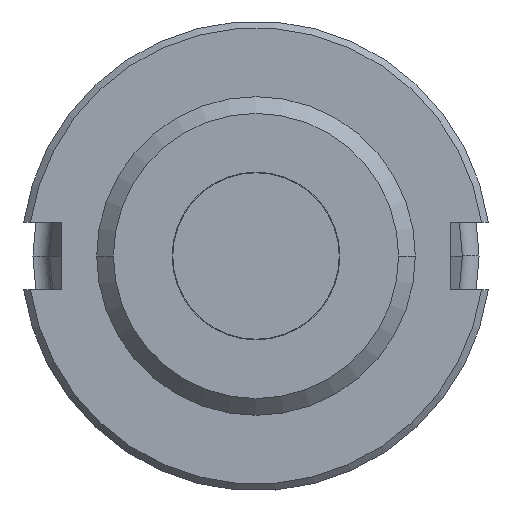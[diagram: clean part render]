
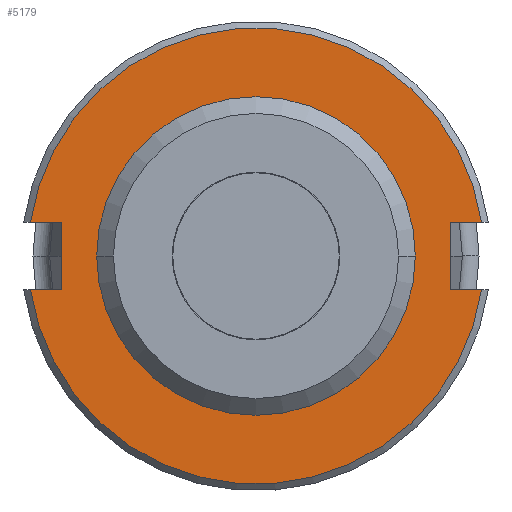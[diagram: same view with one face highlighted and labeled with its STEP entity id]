
A CAD part, left-side view. The second image highlights one B-rep face of the part: STEP entity #5179.
In plain terms, the highlighted planar face has unit normal (-1, 0, 0).
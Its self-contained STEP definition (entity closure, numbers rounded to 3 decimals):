
#195=DIRECTION('',(0.,1.,0.));
#196=VECTOR('',#195,0.926);
#197=CARTESIAN_POINT('',(-9.,5.8,-1.));
#198=LINE('',#197,#196);
#199=DIRECTION('',(0.,0.,-1.));
#200=VECTOR('',#199,2.);
#201=CARTESIAN_POINT('',(-9.,5.8,1.));
#202=LINE('',#201,#200);
#203=DIRECTION('',(0.,-1.,0.));
#204=VECTOR('',#203,0.926);
#205=CARTESIAN_POINT('',(-9.,6.726,1.));
#206=LINE('',#205,#204);
#207=DIRECTION('',(0.,-1.,0.));
#208=VECTOR('',#207,0.926);
#209=CARTESIAN_POINT('',(-9.,-5.8,1.));
#210=LINE('',#209,#208);
#211=DIRECTION('',(0.,0.,1.));
#212=VECTOR('',#211,2.);
#213=CARTESIAN_POINT('',(-9.,-5.8,-1.));
#214=LINE('',#213,#212);
#215=DIRECTION('',(0.,1.,0.));
#216=VECTOR('',#215,0.926);
#217=CARTESIAN_POINT('',(-9.,-6.726,
-1.));
#218=LINE('',#217,#216);
#219=CARTESIAN_POINT('',(-9.,0.,0.));
#220=DIRECTION('',(1.,0.,0.));
#221=DIRECTION('',(0.,1.,0.));
#222=AXIS2_PLACEMENT_3D('',#219,#220,#221);
#228=CARTESIAN_POINT('',(-9.,0.,0.));
#229=DIRECTION('',(1.,0.,0.));
#230=DIRECTION('',(0.,-1.,0.));
#231=AXIS2_PLACEMENT_3D('',#228,#229,#230);
#481=CARTESIAN_POINT('',(-9.,0.,0.));
#482=DIRECTION('',(-1.,0.,0.));
#483=DIRECTION('',(0.,0.989,-0.147));
#484=AXIS2_PLACEMENT_3D('',#481,#482,#483);
#501=CARTESIAN_POINT('',(-9.,-6.726,
-1.));
#531=CARTESIAN_POINT('',(-9.,6.726,
-1.));
#547=CARTESIAN_POINT('',(-9.,6.726,1.));
#577=CARTESIAN_POINT('',(-9.,-6.726,
1.));
#583=CARTESIAN_POINT('',(-9.,0.,0.));
#584=DIRECTION('',(-1.,0.,0.));
#585=DIRECTION('',(0.,-0.989,0.147));
#586=AXIS2_PLACEMENT_3D('',#583,#584,#585);
#4795=CARTESIAN_POINT('',(-9.,-5.8,-1.));
#4796=CARTESIAN_POINT('',(-9.,-5.8,1.));
#4797=VERTEX_POINT('',#4795);
#4798=VERTEX_POINT('',#4796);
#4799=CARTESIAN_POINT('',(-9.,5.8,1.));
#4800=CARTESIAN_POINT('',(-9.,5.8,-1.));
#4801=VERTEX_POINT('',#4799);
#4802=VERTEX_POINT('',#4800);
#4807=CARTESIAN_POINT('',(-9.,4.75,0.));
#4808=CARTESIAN_POINT('',(-9.,-4.75,0.));
#4809=VERTEX_POINT('',#4807);
#4810=VERTEX_POINT('',#4808);
#4835=VERTEX_POINT('',#501);
#4838=VERTEX_POINT('',#531);
#4839=VERTEX_POINT('',#547);
#4842=VERTEX_POINT('',#577);
#5150=CARTESIAN_POINT('',(-9.,0.,0.));
#5151=DIRECTION('',(-1.,0.,0.));
#5152=DIRECTION('',(0.,0.,1.));
#5153=AXIS2_PLACEMENT_3D('',#5150,#5151,#5152);
#5154=PLANE('',#5153);
#5156=ORIENTED_EDGE('',*,*,#5155,.F.);
#5158=ORIENTED_EDGE('',*,*,#5157,.F.);
#5160=ORIENTED_EDGE('',*,*,#5159,.F.);
#5162=ORIENTED_EDGE('',*,*,#5161,.F.);
#5164=ORIENTED_EDGE('',*,*,#5163,.F.);
#5166=ORIENTED_EDGE('',*,*,#5165,.F.);
#5168=ORIENTED_EDGE('',*,*,#5167,.F.);
#5170=ORIENTED_EDGE('',*,*,#5169,.F.);
#5171=EDGE_LOOP('',(#5156,#5158,#5160,#5162,#5164,#5166,#5168,#5170));
#5172=FACE_OUTER_BOUND('',#5171,.F.);
#5174=ORIENTED_EDGE('',*,*,#5173,.F.);
#5176=ORIENTED_EDGE('',*,*,#5175,.F.);
#5177=EDGE_LOOP('',(#5174,#5176));
#5178=FACE_BOUND('',#5177,.F.);
#5179=ADVANCED_FACE('',(#5172,#5178),#5154,.T.);
#223=CIRCLE('',#222,4.75);
#232=CIRCLE('',#231,4.75);
#485=CIRCLE('',#484,6.8);
#587=CIRCLE('',#586,6.8);
#5155=EDGE_CURVE('',#4838,#4835,#485,.T.);
#5157=EDGE_CURVE('',#4802,#4838,#198,.T.);
#5159=EDGE_CURVE('',#4801,#4802,#202,.T.);
#5161=EDGE_CURVE('',#4839,#4801,#206,.T.);
#5163=EDGE_CURVE('',#4842,#4839,#587,.T.);
#5165=EDGE_CURVE('',#4798,#4842,#210,.T.);
#5167=EDGE_CURVE('',#4797,#4798,#214,.T.);
#5169=EDGE_CURVE('',#4835,#4797,#218,.T.);
#5173=EDGE_CURVE('',#4809,#4810,#223,.T.);
#5175=EDGE_CURVE('',#4810,#4809,#232,.T.);
